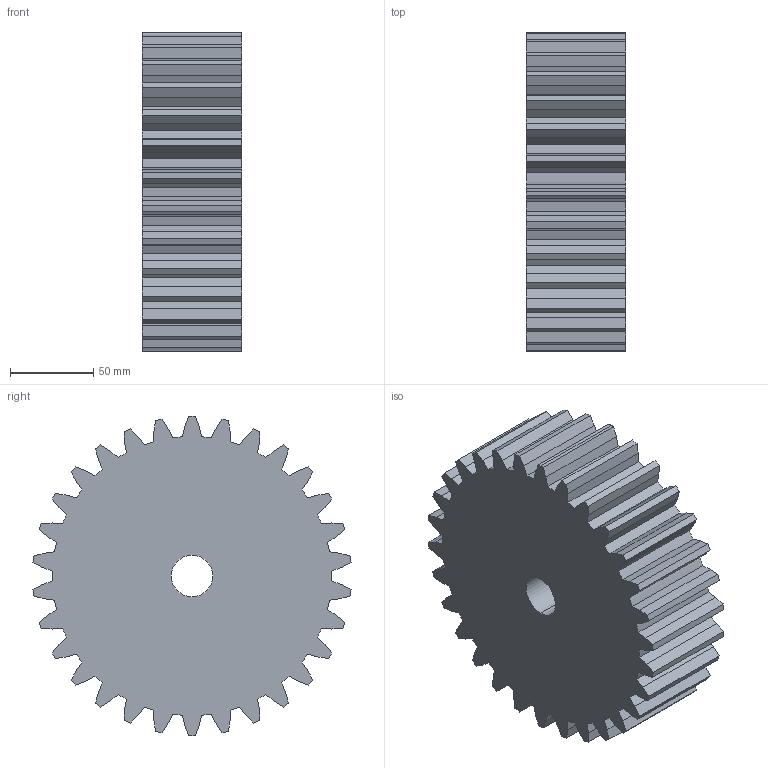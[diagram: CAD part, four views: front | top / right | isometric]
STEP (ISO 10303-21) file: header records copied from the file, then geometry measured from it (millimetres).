
FILE_DESCRIPTION (( 'STEP AP203' ), '1' );
FILE_NAME ('CM 34030.STEP', '2013-09-23T11:40:28', ( '' ), ( '' ), 'SwSTEP 2.0', 'SolidWorks 2010', '' );
FILE_SCHEMA (( 'CONFIG_CONTROL_DESIGN' ));
Length unit declared in the file: millimetre
Products named in the file (1): CM 34030
Bounding box: 60 x 191.32 x 192 mm (x, y, z)
Volume: 1479183.3 mm3; surface area: 117871.1 mm2
Topology: 1 solids, 1 shells, 185 faces, 549 edges, 366 vertices
Faces by surface type: plane 122, cylinder 63
Entity records: 6510 total; most frequent: CARTESIAN_POINT 1989, ORIENTED_EDGE 1098, DIRECTION 695, EDGE_CURVE 549, VERTEX_POINT 366, B_SPLINE_CURVE_WITH_KNOTS 296, AXIS2_PLACEMENT_3D 256, EDGE_LOOP 187
